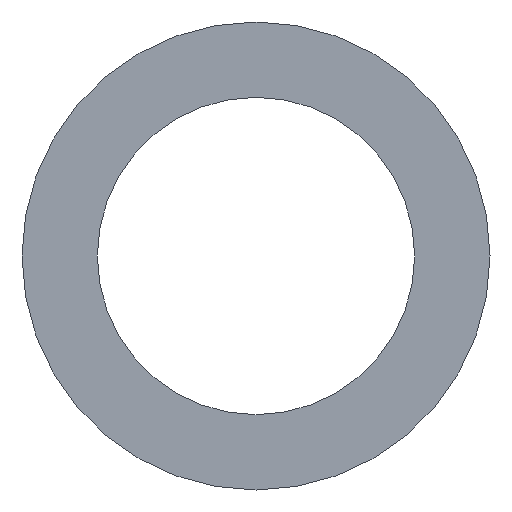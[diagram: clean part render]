
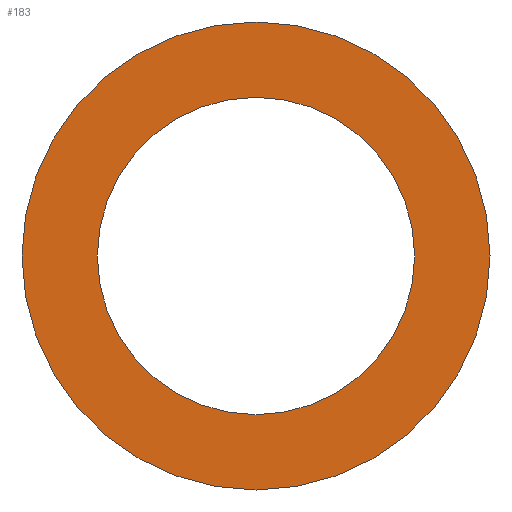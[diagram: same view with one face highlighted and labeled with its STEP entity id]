
A CAD part, left-side view. The second image highlights one B-rep face of the part: STEP entity #183.
In plain terms, the highlighted planar face has unit normal (-1, 0, 0).
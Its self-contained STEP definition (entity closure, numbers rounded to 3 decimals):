
#33=CARTESIAN_POINT('',(0.,292.5,0.));
#34=VERTEX_POINT('',#33);
#41=CARTESIAN_POINT('',(0.,0.,0.));
#42=DIRECTION('',(1.,0.,0.));
#43=DIRECTION('',(0.,1.,0.));
#44=AXIS2_PLACEMENT_3D('',#41,#42,#43);
#45=CIRCLE('',#44,292.5);
#46=EDGE_CURVE('',#34,#34,#45,.T.);
#148=CARTESIAN_POINT('',(0.,198.3,0.));
#149=VERTEX_POINT('',#148);
#156=CARTESIAN_POINT('',(0.,0.,0.));
#157=DIRECTION('',(1.,0.,0.));
#158=DIRECTION('',(0.,1.,0.));
#159=AXIS2_PLACEMENT_3D('',#156,#157,#158);
#160=CIRCLE('',#159,198.3);
#161=EDGE_CURVE('',#149,#149,#160,.T.);
#172=ORIENTED_EDGE('',*,*,#46,.F.);
#173=EDGE_LOOP('',(#172));
#174=FACE_OUTER_BOUND('',#173,.T.);
#175=ORIENTED_EDGE('',*,*,#161,.T.);
#176=EDGE_LOOP('',(#175));
#177=FACE_BOUND('',#176,.T.);
#178=CARTESIAN_POINT('',(0.,245.4,0.));
#179=DIRECTION('',(-1.,0.,0.));
#180=DIRECTION('',(0.,-1.,0.));
#181=AXIS2_PLACEMENT_3D('',#178,#179,#180);
#182=PLANE('',#181);
#183=ADVANCED_FACE('',(#174,#177),#182,.T.);
